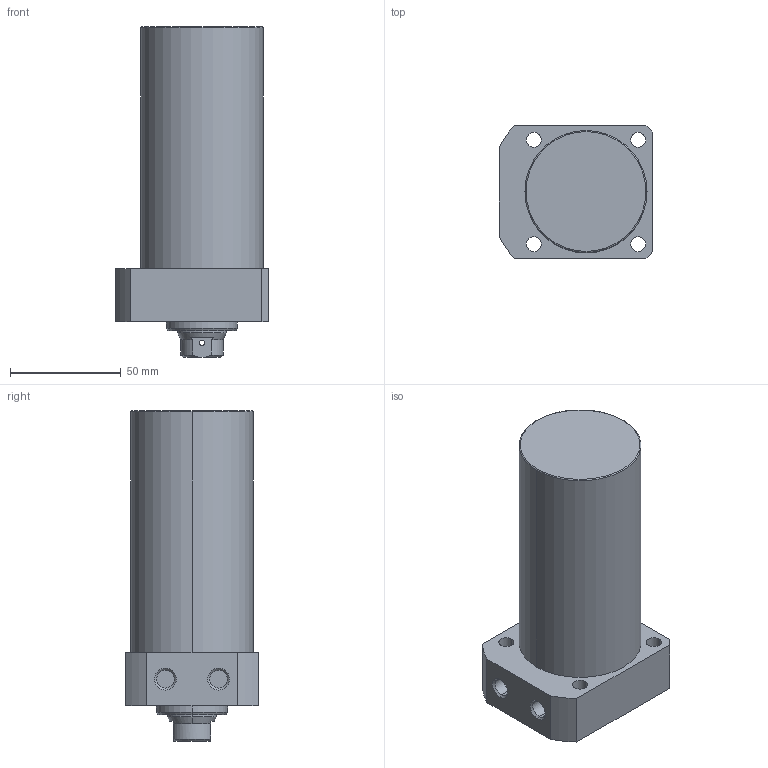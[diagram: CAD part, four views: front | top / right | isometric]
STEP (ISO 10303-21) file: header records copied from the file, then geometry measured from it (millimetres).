
FILE_DESCRIPTION (( 'STEP AP203' ), '1' );
FILE_NAME ('CLLR055-CB-080.STEP', '2017-05-16T03:43:10', ( '' ), ( '' ), 'SwSTEP 2.0', 'SolidWorks 2015', '' );
FILE_SCHEMA (( 'CONFIG_CONTROL_DESIGN' ));
Length unit declared in the file: millimetre
Products named in the file (1): CLLR055-CB-080
Bounding box: 69 x 60 x 149 mm (x, y, z)
Volume: 356550.7 mm3; surface area: 37169.3 mm2
Topology: 1 solids, 1 shells, 69 faces, 162 edges, 101 vertices
Faces by surface type: cylinder 33, plane 19, cone 15, torus 2
Entity records: 2175 total; most frequent: CARTESIAN_POINT 451, DIRECTION 368, ORIENTED_EDGE 320, EDGE_CURVE 160, AXIS2_PLACEMENT_3D 150, VERTEX_POINT 101, EDGE_LOOP 89, CIRCLE 80
